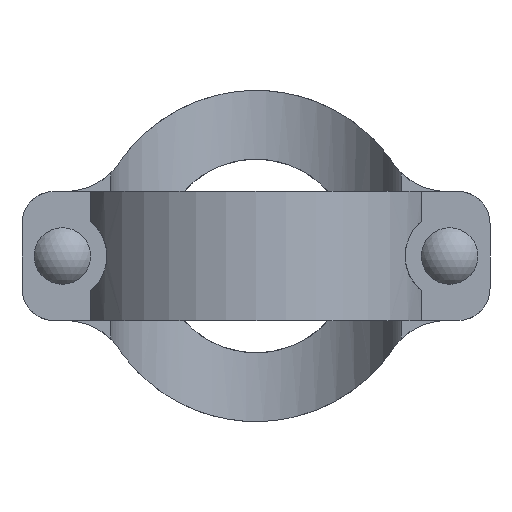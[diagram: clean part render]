
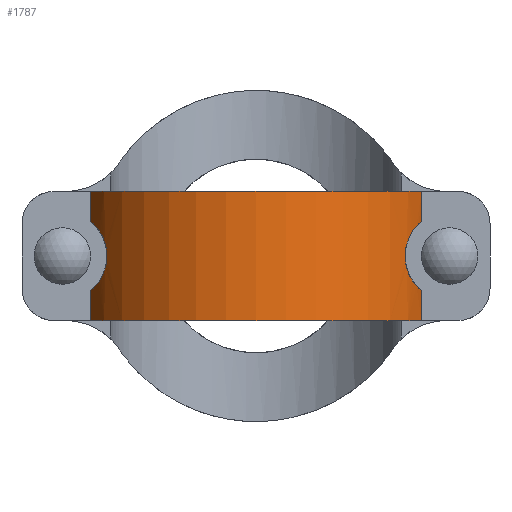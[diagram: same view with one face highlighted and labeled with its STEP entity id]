
A CAD part, front view. The second image highlights one B-rep face of the part: STEP entity #1787.
In plain terms, the highlighted cylindrical face has radius 69.85 mm (diameter 139.7 mm), a partial arc.
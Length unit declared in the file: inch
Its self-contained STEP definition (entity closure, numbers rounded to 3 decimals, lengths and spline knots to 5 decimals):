
#62=B_SPLINE_CURVE_WITH_KNOTS('',3,(#2629,#2630,#2631,#2632,#2633,#2634,
#2635,#2636,#2637,#2638,#2639,#2640,#2641,#2642,#2643,#2644,#2645,#2646,
#2647,#2648,#2649,#2650,#2651,#2652,#2653,#2654),.UNSPECIFIED.,.F.,.F.,
(4,2,2,2,2,2,2,2,2,2,2,2,4),(1.01927,1.09734,1.646,
2.19467,2.61833,2.83016,3.04198,3.25381,
3.46564,3.88929,4.43796,4.98663,5.06469),
 .UNSPECIFIED.);
#77=B_SPLINE_CURVE_WITH_KNOTS('',3,(#3207,#3208,#3209,#3210,#3211,#3212,
#3213,#3214,#3215,#3216,#3217,#3218,#3219,#3220,#3221,#3222,#3223,#3224,
#3225,#3226,#3227,#3228,#3229,#3230,#3231,#3232),.UNSPECIFIED.,.F.,.F.,
(4,2,2,2,2,2,2,2,2,2,2,2,4),(1.01927,1.09734,1.646,
2.19467,2.61833,2.83016,3.04198,3.25381,
3.46564,3.88929,4.43796,4.98663,5.06469),
 .UNSPECIFIED.);
#106=CYLINDRICAL_SURFACE('',#1946,2.75);
#189=FACE_OUTER_BOUND('',#282,.T.);
#282=EDGE_LOOP('',(#1365,#1366,#1367,#1368,#1369,#1370,#1371,#1372));
#427=LINE('',#3314,#569);
#428=LINE('',#3317,#570);
#429=LINE('',#3318,#571);
#430=LINE('',#3319,#572);
#569=VECTOR('',#2337,0.3937);
#570=VECTOR('',#2340,0.3937);
#571=VECTOR('',#2341,0.3937);
#572=VECTOR('',#2342,0.3937);
#651=CIRCLE('',#1945,2.75);
#652=CIRCLE('',#1947,2.75);
#711=VERTEX_POINT('',#2627);
#712=VERTEX_POINT('',#2628);
#775=VERTEX_POINT('',#3205);
#776=VERTEX_POINT('',#3206);
#804=VERTEX_POINT('',#3307);
#805=VERTEX_POINT('',#3309);
#806=VERTEX_POINT('',#3313);
#807=VERTEX_POINT('',#3315);
#892=EDGE_CURVE('',#711,#712,#62,.T.);
#978=EDGE_CURVE('',#775,#776,#77,.T.);
#1018=EDGE_CURVE('',#804,#805,#651,.T.);
#1020=EDGE_CURVE('',#806,#712,#427,.T.);
#1021=EDGE_CURVE('',#807,#806,#652,.T.);
#1022=EDGE_CURVE('',#775,#807,#428,.T.);
#1023=EDGE_CURVE('',#805,#776,#429,.T.);
#1024=EDGE_CURVE('',#711,#804,#430,.T.);
#1365=ORIENTED_EDGE('',*,*,#892,.T.);
#1366=ORIENTED_EDGE('',*,*,#1020,.F.);
#1367=ORIENTED_EDGE('',*,*,#1021,.F.);
#1368=ORIENTED_EDGE('',*,*,#1022,.F.);
#1369=ORIENTED_EDGE('',*,*,#978,.T.);
#1370=ORIENTED_EDGE('',*,*,#1023,.F.);
#1371=ORIENTED_EDGE('',*,*,#1018,.F.);
#1372=ORIENTED_EDGE('',*,*,#1024,.F.);
#1787=ADVANCED_FACE('',(#189),#106,.T.);
#1945=AXIS2_PLACEMENT_3D('',#3310,#2332,#2333);
#1946=AXIS2_PLACEMENT_3D('',#3312,#2335,#2336);
#1947=AXIS2_PLACEMENT_3D('',#3316,#2338,#2339);
#2332=DIRECTION('center_axis',(0.,0.,1.));
#2333=DIRECTION('ref_axis',(-0.932,-0.364,0.));
#2335=DIRECTION('center_axis',(0.,0.,1.));
#2336=DIRECTION('ref_axis',(-0.932,-0.364,0.));
#2337=DIRECTION('',(0.,0.,1.));
#2338=DIRECTION('center_axis',(0.,0.,-1.));
#2339=DIRECTION('ref_axis',(-0.932,-0.364,0.));
#2340=DIRECTION('',(0.,0.,-1.));
#2341=DIRECTION('',(0.,0.,-1.));
#2342=DIRECTION('',(0.,0.,1.));
#2627=CARTESIAN_POINT('',(-2.56174,-1.,0.53294));
#2628=CARTESIAN_POINT('',(-2.56174,-1.,-0.53294));
#2629=CARTESIAN_POINT('Ctrl Pts',(-2.56174,-1.,0.53294));
#2630=CARTESIAN_POINT('Ctrl Pts',(-2.55795,-1.00971,0.52983));
#2631=CARTESIAN_POINT('Ctrl Pts',(-2.55412,-1.01935,0.52661));
#2632=CARTESIAN_POINT('Ctrl Pts',(-2.5231,-1.09624,0.49995));
#2633=CARTESIAN_POINT('Ctrl Pts',(-2.49415,-1.16014,0.47146));
#2634=CARTESIAN_POINT('Ctrl Pts',(-2.43671,-1.27637,0.40109));
#2635=CARTESIAN_POINT('Ctrl Pts',(-2.4082,-1.32878,0.35932));
#2636=CARTESIAN_POINT('Ctrl Pts',(-2.36314,-1.40699,0.26914));
#2637=CARTESIAN_POINT('Ctrl Pts',(-2.34395,-1.43842,0.22072));
#2638=CARTESIAN_POINT('Ctrl Pts',(-2.32393,-1.47037,0.14068));
#2639=CARTESIAN_POINT('Ctrl Pts',(-2.31869,-1.47859,0.11278));
#2640=CARTESIAN_POINT('Ctrl Pts',(-2.31172,-1.48947,0.05634));
#2641=CARTESIAN_POINT('Ctrl Pts',(-2.31,-1.49211,0.0278));
#2642=CARTESIAN_POINT('Ctrl Pts',(-2.31,-1.49211,-0.0278));
#2643=CARTESIAN_POINT('Ctrl Pts',(-2.31172,-1.48947,-0.05634));
#2644=CARTESIAN_POINT('Ctrl Pts',(-2.31869,-1.47859,-0.11278));
#2645=CARTESIAN_POINT('Ctrl Pts',(-2.32393,-1.47037,-0.14068));
#2646=CARTESIAN_POINT('Ctrl Pts',(-2.34395,-1.43842,-0.22072));
#2647=CARTESIAN_POINT('Ctrl Pts',(-2.36314,-1.40699,-0.26914));
#2648=CARTESIAN_POINT('Ctrl Pts',(-2.4082,-1.32878,-0.35932));
#2649=CARTESIAN_POINT('Ctrl Pts',(-2.43671,-1.27637,-0.40109));
#2650=CARTESIAN_POINT('Ctrl Pts',(-2.49415,-1.16014,-0.47146));
#2651=CARTESIAN_POINT('Ctrl Pts',(-2.5231,-1.09624,-0.49995));
#2652=CARTESIAN_POINT('Ctrl Pts',(-2.55412,-1.01935,-0.52661));
#2653=CARTESIAN_POINT('Ctrl Pts',(-2.55795,-1.00971,-0.52983));
#2654=CARTESIAN_POINT('Ctrl Pts',(-2.56174,-1.,-0.53294));
#3205=CARTESIAN_POINT('',(2.56174,-1.,-0.53294));
#3206=CARTESIAN_POINT('',(2.56174,-1.,0.53294));
#3207=CARTESIAN_POINT('Ctrl Pts',(2.56174,-1.,-0.53294));
#3208=CARTESIAN_POINT('Ctrl Pts',(2.55795,-1.00971,-0.52983));
#3209=CARTESIAN_POINT('Ctrl Pts',(2.55412,-1.01935,-0.52661));
#3210=CARTESIAN_POINT('Ctrl Pts',(2.5231,-1.09624,-0.49995));
#3211=CARTESIAN_POINT('Ctrl Pts',(2.49415,-1.16014,-0.47146));
#3212=CARTESIAN_POINT('Ctrl Pts',(2.43671,-1.27637,-0.40109));
#3213=CARTESIAN_POINT('Ctrl Pts',(2.4082,-1.32878,-0.35932));
#3214=CARTESIAN_POINT('Ctrl Pts',(2.36314,-1.40699,-0.26914));
#3215=CARTESIAN_POINT('Ctrl Pts',(2.34395,-1.43842,-0.22072));
#3216=CARTESIAN_POINT('Ctrl Pts',(2.32393,-1.47037,-0.14068));
#3217=CARTESIAN_POINT('Ctrl Pts',(2.31869,-1.47859,-0.11278));
#3218=CARTESIAN_POINT('Ctrl Pts',(2.31172,-1.48947,-0.05634));
#3219=CARTESIAN_POINT('Ctrl Pts',(2.31,-1.49211,-0.0278));
#3220=CARTESIAN_POINT('Ctrl Pts',(2.31,-1.49211,0.0278));
#3221=CARTESIAN_POINT('Ctrl Pts',(2.31172,-1.48947,0.05634));
#3222=CARTESIAN_POINT('Ctrl Pts',(2.31869,-1.47859,0.11278));
#3223=CARTESIAN_POINT('Ctrl Pts',(2.32393,-1.47037,0.14068));
#3224=CARTESIAN_POINT('Ctrl Pts',(2.34395,-1.43842,0.22072));
#3225=CARTESIAN_POINT('Ctrl Pts',(2.36314,-1.40699,0.26914));
#3226=CARTESIAN_POINT('Ctrl Pts',(2.4082,-1.32878,0.35932));
#3227=CARTESIAN_POINT('Ctrl Pts',(2.43671,-1.27637,0.40109));
#3228=CARTESIAN_POINT('Ctrl Pts',(2.49415,-1.16014,0.47146));
#3229=CARTESIAN_POINT('Ctrl Pts',(2.5231,-1.09624,0.49995));
#3230=CARTESIAN_POINT('Ctrl Pts',(2.55412,-1.01935,0.52661));
#3231=CARTESIAN_POINT('Ctrl Pts',(2.55795,-1.00971,0.52983));
#3232=CARTESIAN_POINT('Ctrl Pts',(2.56174,-1.,0.53294));
#3307=CARTESIAN_POINT('',(-2.56174,-1.,1.));
#3309=CARTESIAN_POINT('',(2.56174,-1.,1.));
#3310=CARTESIAN_POINT('Origin',(0.,0.,1.));
#3312=CARTESIAN_POINT('Origin',(0.,0.,0.));
#3313=CARTESIAN_POINT('',(-2.56174,-1.,-1.));
#3314=CARTESIAN_POINT('',(-2.56174,-1.,0.));
#3315=CARTESIAN_POINT('',(2.56174,-1.,-1.));
#3316=CARTESIAN_POINT('Origin',(0.,0.,-1.));
#3317=CARTESIAN_POINT('',(2.56174,-1.,0.));
#3318=CARTESIAN_POINT('',(2.56174,-1.,0.));
#3319=CARTESIAN_POINT('',(-2.56174,-1.,0.));
